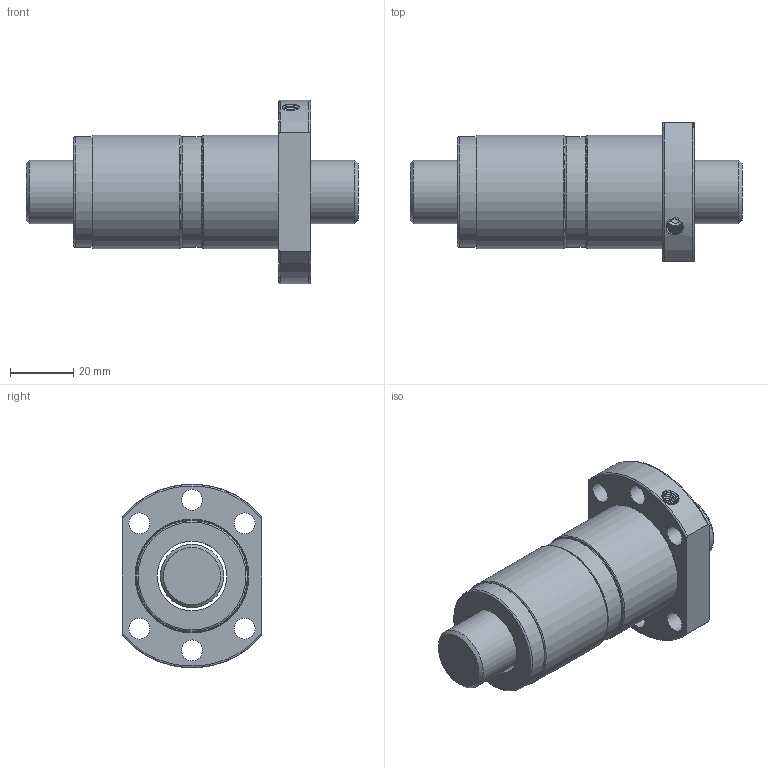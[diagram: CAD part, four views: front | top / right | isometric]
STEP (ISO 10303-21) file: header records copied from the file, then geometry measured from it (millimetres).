
FILE_DESCRIPTION(/* description */ ('Unknown','CAx-IF Rec.Pracs.---Representation and Presentation of Product Manufacturing Information (PMI)---4.0---2014-10-13','CAx-IF Rec.Pracs.---3D Tessellated Geometry---0.4---2014-09-14','2;1'),/* implementation_level */ '2;1');
FILE_NAME(/* name */ 'DFS02005',/* time_stamp */ '2020-12-07T10:19:46+08:00',/* author */ ('Unknown'),/* organization */ ('Unknown'),/* preprocessor_version */ 'ST-DEVELOPER v16.7',/* originating_system */ 'Solid Edge',/* authorisation */ 'Unknown');
FILE_SCHEMA (('AP242_MANAGED_MODEL_BASED_3D_ENGINEERING_MIM_LF { 1 0 10303 442 1 1 4 }'));
Length unit declared in the file: millimetre
Products named in the file (1): DFS02005
Bounding box: 104.85 x 44 x 58 mm (x, y, z)
Volume: 89705.4 mm3; surface area: 27840.3 mm2
Topology: 2 solids, 2 shells, 48 faces, 117 edges, 76 vertices
Faces by surface type: cylinder 19, plane 13, torus 11, cone 3, bspline 2
Full cylindrical faces by diameter (mm): 4 x1, 6.6 x6, 20 x1, 22 x1, 35 x3, 36 x3
Entity records: 3420 total; most frequent: CARTESIAN_POINT 2355, DIRECTION 208, ORIENTED_EDGE 164, AXIS2_PLACEMENT_3D 100, EDGE_LOOP 94, FACE_BOUND 94, EDGE_CURVE 82, VERTEX_POINT 66
